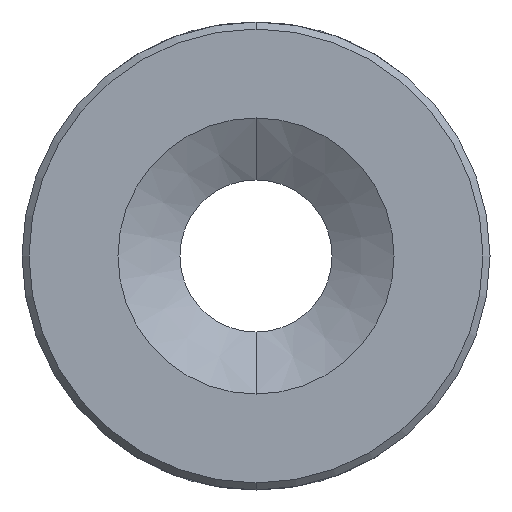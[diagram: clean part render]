
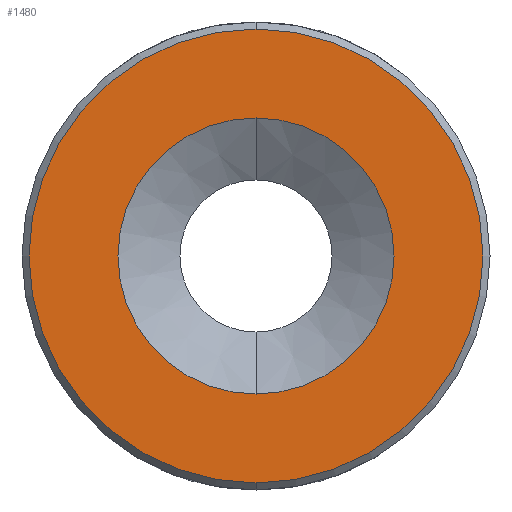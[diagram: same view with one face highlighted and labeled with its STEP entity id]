
A CAD part, front view. The second image highlights one B-rep face of the part: STEP entity #1480.
In plain terms, the highlighted planar face has unit normal (0, -1, 0).
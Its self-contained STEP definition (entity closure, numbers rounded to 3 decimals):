
#72 = VERTEX_POINT ( 'NONE', #1610 ) ;
#219 = CARTESIAN_POINT ( 'NONE',  ( 0., 0., 0. ) ) ;
#225 = DIRECTION ( 'NONE',  ( 0., -1., 0. ) ) ;
#236 = DIRECTION ( 'NONE',  ( 0., 0., 1. ) ) ;
#254 = CIRCLE ( 'NONE', #1751, 5.9 ) ;
#450 = EDGE_LOOP ( 'NONE', ( #907, #990 ) ) ;
#475 = FACE_OUTER_BOUND ( 'NONE', #2278, .T. ) ;
#545 = DIRECTION ( 'NONE',  ( 0., 0., 1. ) ) ;
#563 = CARTESIAN_POINT ( 'NONE',  ( 0., 0., 5.9 ) ) ;
#572 = AXIS2_PLACEMENT_3D ( 'NONE', #219, #225, #236 ) ;
#701 = EDGE_CURVE ( 'NONE', #2162, #1554, #1842, .T. ) ;
#753 = CIRCLE ( 'NONE', #572, 9.7 ) ;
#797 = CARTESIAN_POINT ( 'NONE',  ( 0., 0., 0. ) ) ;
#809 = AXIS2_PLACEMENT_3D ( 'NONE', #797, #1449, #925 ) ;
#885 = EDGE_CURVE ( 'NONE', #1554, #2162, #254, .T. ) ;
#890 = VERTEX_POINT ( 'NONE', #1727 ) ;
#907 = ORIENTED_EDGE ( 'NONE', *, *, #701, .F. ) ;
#925 = DIRECTION ( 'NONE',  ( 0., 0., 1. ) ) ;
#974 = ORIENTED_EDGE ( 'NONE', *, *, #1187, .T. ) ;
#990 = ORIENTED_EDGE ( 'NONE', *, *, #885, .F. ) ;
#1110 = CARTESIAN_POINT ( 'NONE',  ( 0., 0., -5.9 ) ) ;
#1169 = EDGE_CURVE ( 'NONE', #890, #72, #1761, .T. ) ;
#1187 = EDGE_CURVE ( 'NONE', #72, #890, #753, .T. ) ;
#1341 = AXIS2_PLACEMENT_3D ( 'NONE', #2199, #2209, #545 ) ;
#1366 = FACE_BOUND ( 'NONE', #450, .T. ) ;
#1371 = AXIS2_PLACEMENT_3D ( 'NONE', #1728, #1799, #1810 ) ;
#1449 = DIRECTION ( 'NONE',  ( 0., 1., 0. ) ) ;
#1480 = ADVANCED_FACE ( 'NONE', ( #475, #1366 ), #1797, .F. ) ;
#1554 = VERTEX_POINT ( 'NONE', #563 ) ;
#1610 = CARTESIAN_POINT ( 'NONE',  ( 0., 0., 9.7 ) ) ;
#1727 = CARTESIAN_POINT ( 'NONE',  ( 0., 0., -9.7 ) ) ;
#1728 = CARTESIAN_POINT ( 'NONE',  ( 0., 0., 0. ) ) ;
#1751 = AXIS2_PLACEMENT_3D ( 'NONE', #1914, #1921, #1928 ) ;
#1761 = CIRCLE ( 'NONE', #1341, 9.7 ) ;
#1797 = PLANE ( 'NONE',  #809 ) ;
#1799 = DIRECTION ( 'NONE',  ( 0., -1., 0. ) ) ;
#1810 = DIRECTION ( 'NONE',  ( 0., 0., -1. ) ) ;
#1842 = CIRCLE ( 'NONE', #1371, 5.9 ) ;
#1914 = CARTESIAN_POINT ( 'NONE',  ( 0., 0., 0. ) ) ;
#1921 = DIRECTION ( 'NONE',  ( 0., -1., 0. ) ) ;
#1928 = DIRECTION ( 'NONE',  ( 0., 0., -1. ) ) ;
#1994 = ORIENTED_EDGE ( 'NONE', *, *, #1169, .T. ) ;
#2162 = VERTEX_POINT ( 'NONE', #1110 ) ;
#2199 = CARTESIAN_POINT ( 'NONE',  ( 0., 0., 0. ) ) ;
#2209 = DIRECTION ( 'NONE',  ( 0., -1., 0. ) ) ;
#2278 = EDGE_LOOP ( 'NONE', ( #974, #1994 ) ) ;
